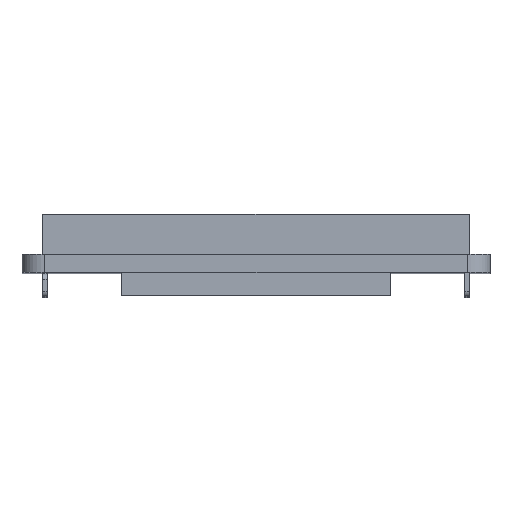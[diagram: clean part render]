
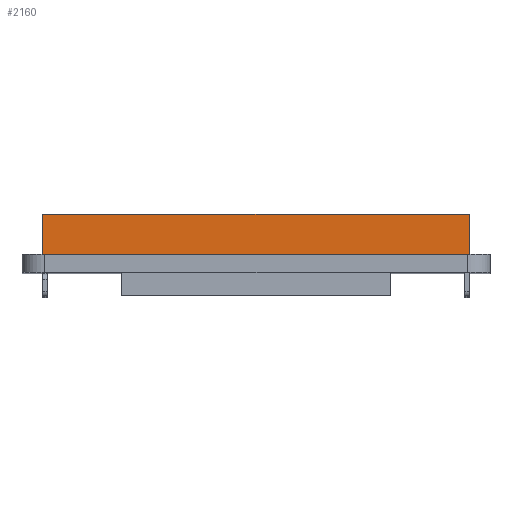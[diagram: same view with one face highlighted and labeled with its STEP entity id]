
A CAD part, top view. The second image highlights one B-rep face of the part: STEP entity #2160.
In plain terms, the highlighted planar face has unit normal (0, 0, 1).
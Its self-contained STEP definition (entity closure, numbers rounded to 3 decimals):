
#387=DIRECTION('',(1.,0.,0.));
#388=VECTOR('',#387,1.98);
#389=CARTESIAN_POINT('',(16.67,0.,26.35));
#390=LINE('',#389,#388);
#395=DIRECTION('',(1.,0.,0.));
#396=VECTOR('',#395,30.34);
#397=CARTESIAN_POINT('',(-15.17,0.,26.35));
#398=LINE('',#397,#396);
#435=DIRECTION('',(1.,0.,0.));
#436=VECTOR('',#435,1.98);
#437=CARTESIAN_POINT('',(-18.65,0.,26.35));
#438=LINE('',#437,#436);
#786=DIRECTION('',(0.,1.,0.));
#787=VECTOR('',#786,3.5);
#788=CARTESIAN_POINT('',(18.65,0.,26.35));
#789=LINE('',#788,#787);
#847=DIRECTION('',(-1.,0.,0.));
#848=VECTOR('',#847,0.5);
#849=CARTESIAN_POINT('',(16.17,-1.4,26.35));
#850=LINE('',#849,#848);
#851=CARTESIAN_POINT('',(15.67,-0.9,26.35));
#852=DIRECTION('',(0.,0.,1.));
#853=DIRECTION('',(-1.,0.,0.));
#854=AXIS2_PLACEMENT_3D('',#851,#852,#853);
#856=DIRECTION('',(0.,-1.,0.));
#857=VECTOR('',#856,0.9);
#858=CARTESIAN_POINT('',(-15.17,0.,26.35));
#859=LINE('',#858,#857);
#860=CARTESIAN_POINT('',(-15.67,-0.9,26.35));
#861=DIRECTION('',(0.,0.,1.));
#862=DIRECTION('',(0.,-1.,0.));
#863=AXIS2_PLACEMENT_3D('',#860,#861,#862);
#865=DIRECTION('',(-1.,0.,0.));
#866=VECTOR('',#865,0.5);
#867=CARTESIAN_POINT('',(-15.67,-1.4,26.35));
#868=LINE('',#867,#866);
#869=CARTESIAN_POINT('',(-16.17,-0.9,26.35));
#870=DIRECTION('',(0.,0.,1.));
#871=DIRECTION('',(-1.,0.,0.));
#872=AXIS2_PLACEMENT_3D('',#869,#870,#871);
#874=DIRECTION('',(0.,1.,0.));
#875=VECTOR('',#874,3.5);
#876=CARTESIAN_POINT('',(-18.65,0.,26.35));
#877=LINE('',#876,#875);
#878=DIRECTION('',(0.,-1.,0.));
#879=VECTOR('',#878,0.9);
#880=CARTESIAN_POINT('',(16.67,0.,26.35));
#881=LINE('',#880,#879);
#882=CARTESIAN_POINT('',(16.17,-0.9,26.35));
#883=DIRECTION('',(0.,0.,1.));
#884=DIRECTION('',(0.,-1.,0.));
#885=AXIS2_PLACEMENT_3D('',#882,#883,#884);
#1099=DIRECTION('',(1.,0.,0.));
#1100=VECTOR('',#1099,37.3);
#1101=CARTESIAN_POINT('',(-18.65,3.5,26.35));
#1102=LINE('',#1101,#1100);
#1163=DIRECTION('',(0.,-1.,0.));
#1164=VECTOR('',#1163,0.9);
#1165=CARTESIAN_POINT('',(-16.67,0.,26.35));
#1166=LINE('',#1165,#1164);
#1179=DIRECTION('',(0.,-1.,0.));
#1180=VECTOR('',#1179,0.9);
#1181=CARTESIAN_POINT('',(15.17,0.,26.35));
#1182=LINE('',#1181,#1180);
#1252=CARTESIAN_POINT('',(-18.65,3.5,26.35));
#1254=VERTEX_POINT('',#1252);
#1255=CARTESIAN_POINT('',(18.65,3.5,26.35));
#1256=VERTEX_POINT('',#1255);
#1261=CARTESIAN_POINT('',(-18.65,0.,26.35));
#1262=VERTEX_POINT('',#1261);
#1263=CARTESIAN_POINT('',(18.65,0.,26.35));
#1264=VERTEX_POINT('',#1263);
#1315=CARTESIAN_POINT('',(-16.67,0.,26.35));
#1316=VERTEX_POINT('',#1315);
#1317=CARTESIAN_POINT('',(-15.17,0.,26.35));
#1318=CARTESIAN_POINT('',(15.17,0.,26.35));
#1319=VERTEX_POINT('',#1317);
#1320=VERTEX_POINT('',#1318);
#1371=CARTESIAN_POINT('',(16.17,-1.4,26.35));
#1372=CARTESIAN_POINT('',(15.67,-1.4,26.35));
#1373=VERTEX_POINT('',#1371);
#1374=VERTEX_POINT('',#1372);
#1487=CARTESIAN_POINT('',(16.67,0.,26.35));
#1489=VERTEX_POINT('',#1487);
#1493=CARTESIAN_POINT('',(16.67,-0.9,26.35));
#1494=VERTEX_POINT('',#1493);
#1495=CARTESIAN_POINT('',(15.17,-0.9,26.35));
#1496=VERTEX_POINT('',#1495);
#1503=CARTESIAN_POINT('',(-15.67,-1.4,26.35));
#1504=VERTEX_POINT('',#1503);
#1505=CARTESIAN_POINT('',(-15.17,-0.9,26.35));
#1506=VERTEX_POINT('',#1505);
#1507=CARTESIAN_POINT('',(-16.67,-0.9,26.35));
#1508=CARTESIAN_POINT('',(-16.17,-1.4,26.35));
#1509=VERTEX_POINT('',#1507);
#1510=VERTEX_POINT('',#1508);
#2126=CARTESIAN_POINT('',(-18.65,0.,26.35));
#2127=DIRECTION('',(0.,0.,1.));
#2128=DIRECTION('',(1.,0.,0.));
#2129=AXIS2_PLACEMENT_3D('',#2126,#2127,#2128);
#2130=PLANE('',#2129);
#2132=ORIENTED_EDGE('',*,*,#2131,.T.);
#2134=ORIENTED_EDGE('',*,*,#2133,.F.);
#2136=ORIENTED_EDGE('',*,*,#2135,.F.);
#2137=ORIENTED_EDGE('',*,*,#1584,.F.);
#2139=ORIENTED_EDGE('',*,*,#2138,.T.);
#2141=ORIENTED_EDGE('',*,*,#2140,.F.);
#2143=ORIENTED_EDGE('',*,*,#2142,.T.);
#2145=ORIENTED_EDGE('',*,*,#2144,.F.);
#2147=ORIENTED_EDGE('',*,*,#2146,.F.);
#2148=ORIENTED_EDGE('',*,*,#1622,.F.);
#2149=ORIENTED_EDGE('',*,*,#1794,.T.);
#2151=ORIENTED_EDGE('',*,*,#2150,.T.);
#2152=ORIENTED_EDGE('',*,*,#2078,.F.);
#2153=ORIENTED_EDGE('',*,*,#1572,.F.);
#2155=ORIENTED_EDGE('',*,*,#2154,.T.);
#2157=ORIENTED_EDGE('',*,*,#2156,.F.);
#2158=EDGE_LOOP('',(#2132,#2134,#2136,#2137,#2139,#2141,#2143,#2145,#2147,#2148,
#2149,#2151,#2152,#2153,#2155,#2157));
#2159=FACE_OUTER_BOUND('',#2158,.F.);
#855=CIRCLE('',#854,0.5);
#864=CIRCLE('',#863,0.5);
#873=CIRCLE('',#872,0.5);
#886=CIRCLE('',#885,0.5);
#1572=EDGE_CURVE('',#1489,#1264,#390,.T.);
#1584=EDGE_CURVE('',#1319,#1320,#398,.T.);
#1622=EDGE_CURVE('',#1262,#1316,#438,.T.);
#1794=EDGE_CURVE('',#1262,#1254,#877,.T.);
#2078=EDGE_CURVE('',#1264,#1256,#789,.T.);
#2131=EDGE_CURVE('',#1373,#1374,#850,.T.);
#2133=EDGE_CURVE('',#1496,#1374,#855,.T.);
#2135=EDGE_CURVE('',#1320,#1496,#1182,.T.);
#2138=EDGE_CURVE('',#1319,#1506,#859,.T.);
#2140=EDGE_CURVE('',#1504,#1506,#864,.T.);
#2142=EDGE_CURVE('',#1504,#1510,#868,.T.);
#2144=EDGE_CURVE('',#1509,#1510,#873,.T.);
#2146=EDGE_CURVE('',#1316,#1509,#1166,.T.);
#2150=EDGE_CURVE('',#1254,#1256,#1102,.T.);
#2154=EDGE_CURVE('',#1489,#1494,#881,.T.);
#2156=EDGE_CURVE('',#1373,#1494,#886,.T.);
#2160=ADVANCED_FACE('',(#2159),#2130,.T.);
